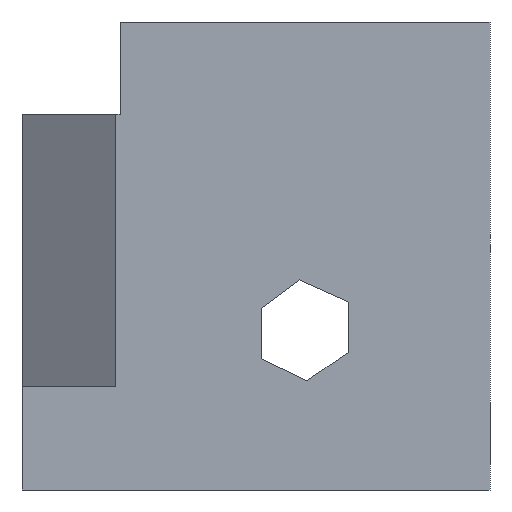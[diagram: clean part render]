
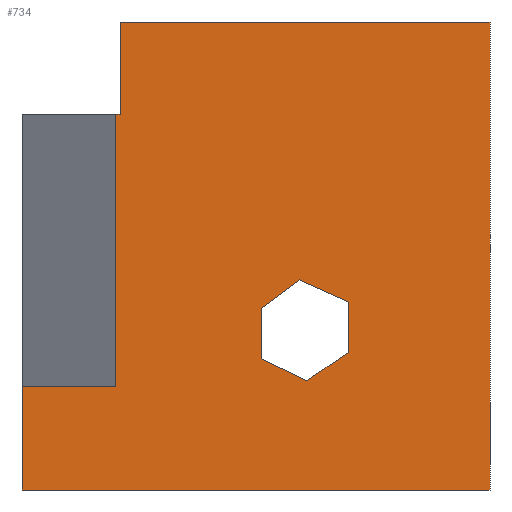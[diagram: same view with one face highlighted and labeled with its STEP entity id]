
A CAD part, front view. The second image highlights one B-rep face of the part: STEP entity #734.
In plain terms, the highlighted planar face has unit normal (0, -1, 0).
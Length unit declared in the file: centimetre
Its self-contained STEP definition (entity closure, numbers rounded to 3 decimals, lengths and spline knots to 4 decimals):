
#1 = VERTEX_POINT ( 'NONE', #893 ) ;
#14 = LINE ( 'NONE', #673, #57 ) ;
#19 = DIRECTION ( 'NONE',  ( 0., 0., 1. ) ) ;
#27 = VERTEX_POINT ( 'NONE', #516 ) ;
#33 = EDGE_CURVE ( 'NONE', #176, #27, #332, .T. ) ;
#42 = DIRECTION ( 'NONE',  ( 0., 0., 1. ) ) ;
#55 = EDGE_CURVE ( 'NONE', #27, #319, #967, .T. ) ;
#57 = VECTOR ( 'NONE', #19, 100. ) ;
#62 = CARTESIAN_POINT ( 'NONE',  ( 209.6532, 0., 803.2776 ) ) ;
#77 = LINE ( 'NONE', #62, #773 ) ;
#107 = EDGE_CURVE ( 'NONE', #782, #1019, #535, .T. ) ;
#110 = DIRECTION ( 'NONE',  ( 0., 0., -1. ) ) ;
#131 = CARTESIAN_POINT ( 'NONE',  ( 697.5594, 0., 401.6271 ) ) ;
#133 = ORIENTED_EDGE ( 'NONE', *, *, #1126, .T. ) ;
#153 = CARTESIAN_POINT ( 'NONE',  ( 209.6532, 0., 803.2776 ) ) ;
#168 = AXIS2_PLACEMENT_3D ( 'NONE', #418, #512, #42 ) ;
#172 = CARTESIAN_POINT ( 'NONE',  ( 510.9572, 0., 388.3194 ) ) ;
#176 = VERTEX_POINT ( 'NONE', #720 ) ;
#184 = ORIENTED_EDGE ( 'NONE', *, *, #107, .F. ) ;
#189 = ORIENTED_EDGE ( 'NONE', *, *, #616, .T. ) ;
#191 = DIRECTION ( 'NONE',  ( 0., 0., -1. ) ) ;
#207 = FACE_OUTER_BOUND ( 'NONE', #797, .T. ) ;
#216 = ORIENTED_EDGE ( 'NONE', *, *, #804, .T. ) ;
#231 = CARTESIAN_POINT ( 'NONE',  ( 0., 0., 220.93 ) ) ;
#246 = VECTOR ( 'NONE', #1190, 100. ) ;
#249 = LINE ( 'NONE', #625, #465 ) ;
#266 = VECTOR ( 'NONE', #1176, 100. ) ;
#279 = EDGE_CURVE ( 'NONE', #1117, #1027, #14, .T. ) ;
#301 = ORIENTED_EDGE ( 'NONE', *, *, #397, .F. ) ;
#319 = VERTEX_POINT ( 'NONE', #585 ) ;
#332 = LINE ( 'NONE', #785, #1161 ) ;
#341 = ORIENTED_EDGE ( 'NONE', *, *, #438, .T. ) ;
#354 = LINE ( 'NONE', #443, #561 ) ;
#355 = EDGE_CURVE ( 'NONE', #789, #513, #354, .T. ) ;
#390 = CARTESIAN_POINT ( 'NONE',  ( 0., 0., 1000. ) ) ;
#395 = VERTEX_POINT ( 'NONE', #1177 ) ;
#397 = EDGE_CURVE ( 'NONE', #1019, #889, #249, .T. ) ;
#400 = CARTESIAN_POINT ( 'NONE',  ( 0., 0., 803.2776 ) ) ;
#418 = CARTESIAN_POINT ( 'NONE',  ( 0., 0., 1000. ) ) ;
#437 = DIRECTION ( 'NONE',  ( 0., 0., -1. ) ) ;
#438 = EDGE_CURVE ( 'NONE', #395, #1117, #1091, .T. ) ;
#443 = CARTESIAN_POINT ( 'NONE',  ( 0., 0., 1000. ) ) ;
#447 = LINE ( 'NONE', #1204, #932 ) ;
#448 = EDGE_CURVE ( 'NONE', #1133, #1, #639, .T. ) ;
#452 = CARTESIAN_POINT ( 'NONE',  ( 510.9572, 0., 280.5846 ) ) ;
#456 = CARTESIAN_POINT ( 'NONE',  ( 0., 0., 0. ) ) ;
#465 = VECTOR ( 'NONE', #539, 100. ) ;
#484 = VERTEX_POINT ( 'NONE', #153 ) ;
#502 = EDGE_CURVE ( 'NONE', #789, #484, #77, .T. ) ;
#509 = DIRECTION ( 'NONE',  ( 0., 0., -1. ) ) ;
#511 = ORIENTED_EDGE ( 'NONE', *, *, #279, .T. ) ;
#512 = DIRECTION ( 'NONE',  ( 0., 1., 0. ) ) ;
#513 = VERTEX_POINT ( 'NONE', #999 ) ;
#516 = CARTESIAN_POINT ( 'NONE',  ( 697.5594, 0., 401.6271 ) ) ;
#528 = LINE ( 'NONE', #534, #558 ) ;
#531 = EDGE_CURVE ( 'NONE', #513, #1, #447, .T. ) ;
#534 = CARTESIAN_POINT ( 'NONE',  ( 697.5594, 0., 293.8923 ) ) ;
#535 = LINE ( 'NONE', #727, #266 ) ;
#539 = DIRECTION ( 'NONE',  ( 0., 0., 1. ) ) ;
#544 = CARTESIAN_POINT ( 'NONE',  ( 608.0999, 0., 233.371 ) ) ;
#558 = VECTOR ( 'NONE', #626, 100. ) ;
#561 = VECTOR ( 'NONE', #1083, 100. ) ;
#568 = ORIENTED_EDGE ( 'NONE', *, *, #502, .T. ) ;
#583 = PLANE ( 'NONE',  #168 ) ;
#585 = CARTESIAN_POINT ( 'NONE',  ( 697.5594, 0., 293.8923 ) ) ;
#595 = EDGE_LOOP ( 'NONE', ( #682, #669, #663, #341, #511, #133 ) ) ;
#616 = EDGE_CURVE ( 'NONE', #782, #1133, #946, .T. ) ;
#625 = CARTESIAN_POINT ( 'NONE',  ( 200.4255, 0., 220.93 ) ) ;
#626 = DIRECTION ( 'NONE',  ( -0.828, 0., -0.56 ) ) ;
#637 = CARTESIAN_POINT ( 'NONE',  ( 200.4255, 0., 220.93 ) ) ;
#639 = LINE ( 'NONE', #1009, #897 ) ;
#663 = ORIENTED_EDGE ( 'NONE', *, *, #955, .T. ) ;
#669 = ORIENTED_EDGE ( 'NONE', *, *, #55, .T. ) ;
#673 = CARTESIAN_POINT ( 'NONE',  ( 510.9572, 0., 280.5846 ) ) ;
#682 = ORIENTED_EDGE ( 'NONE', *, *, #33, .T. ) ;
#704 = DIRECTION ( 'NONE',  ( -1., 0., 0. ) ) ;
#720 = CARTESIAN_POINT ( 'NONE',  ( 592.7335, 0., 448.8407 ) ) ;
#727 = CARTESIAN_POINT ( 'NONE',  ( 200.4255, 0., 220.93 ) ) ;
#734 = ADVANCED_FACE ( 'NONE', ( #890, #207 ), #583, .F. ) ;
#773 = VECTOR ( 'NONE', #437, 100. ) ;
#779 = DIRECTION ( 'NONE',  ( 0.912, 0., -0.411 ) ) ;
#782 = VERTEX_POINT ( 'NONE', #231 ) ;
#785 = CARTESIAN_POINT ( 'NONE',  ( 592.7335, 0., 448.8407 ) ) ;
#789 = VERTEX_POINT ( 'NONE', #978 ) ;
#797 = EDGE_LOOP ( 'NONE', ( #216, #301, #184, #189, #802, #1052, #1032, #568 ) ) ;
#800 = VECTOR ( 'NONE', #1183, 100. ) ;
#802 = ORIENTED_EDGE ( 'NONE', *, *, #448, .T. ) ;
#804 = EDGE_CURVE ( 'NONE', #484, #889, #864, .T. ) ;
#821 = DIRECTION ( 'NONE',  ( 1., 0., 0. ) ) ;
#835 = VECTOR ( 'NONE', #110, 100. ) ;
#864 = LINE ( 'NONE', #400, #913 ) ;
#886 = CARTESIAN_POINT ( 'NONE',  ( 200.4255, 0., 803.2776 ) ) ;
#889 = VERTEX_POINT ( 'NONE', #886 ) ;
#890 = FACE_BOUND ( 'NONE', #595, .T. ) ;
#893 = CARTESIAN_POINT ( 'NONE',  ( 1000., 0., 0. ) ) ;
#897 = VECTOR ( 'NONE', #821, 100. ) ;
#913 = VECTOR ( 'NONE', #704, 100. ) ;
#932 = VECTOR ( 'NONE', #191, 100. ) ;
#946 = LINE ( 'NONE', #390, #835 ) ;
#955 = EDGE_CURVE ( 'NONE', #319, #395, #528, .T. ) ;
#967 = LINE ( 'NONE', #131, #1099 ) ;
#978 = CARTESIAN_POINT ( 'NONE',  ( 209.6532, 0., 1000. ) ) ;
#999 = CARTESIAN_POINT ( 'NONE',  ( 1000., 0., 1000. ) ) ;
#1007 = LINE ( 'NONE', #1016, #246 ) ;
#1009 = CARTESIAN_POINT ( 'NONE',  ( 0., 0., 0. ) ) ;
#1016 = CARTESIAN_POINT ( 'NONE',  ( 510.9572, 0., 388.3194 ) ) ;
#1019 = VERTEX_POINT ( 'NONE', #637 ) ;
#1027 = VERTEX_POINT ( 'NONE', #172 ) ;
#1032 = ORIENTED_EDGE ( 'NONE', *, *, #355, .F. ) ;
#1052 = ORIENTED_EDGE ( 'NONE', *, *, #531, .F. ) ;
#1083 = DIRECTION ( 'NONE',  ( 1., 0., 0. ) ) ;
#1091 = LINE ( 'NONE', #544, #800 ) ;
#1099 = VECTOR ( 'NONE', #509, 100. ) ;
#1117 = VERTEX_POINT ( 'NONE', #452 ) ;
#1126 = EDGE_CURVE ( 'NONE', #1027, #176, #1007, .T. ) ;
#1133 = VERTEX_POINT ( 'NONE', #456 ) ;
#1161 = VECTOR ( 'NONE', #779, 100. ) ;
#1176 = DIRECTION ( 'NONE',  ( 1., 0., 0. ) ) ;
#1177 = CARTESIAN_POINT ( 'NONE',  ( 608.0999, 0., 233.371 ) ) ;
#1183 = DIRECTION ( 'NONE',  ( -0.899, 0., 0.437 ) ) ;
#1190 = DIRECTION ( 'NONE',  ( 0.804, 0., 0.595 ) ) ;
#1204 = CARTESIAN_POINT ( 'NONE',  ( 1000., 0., 1000. ) ) ;
